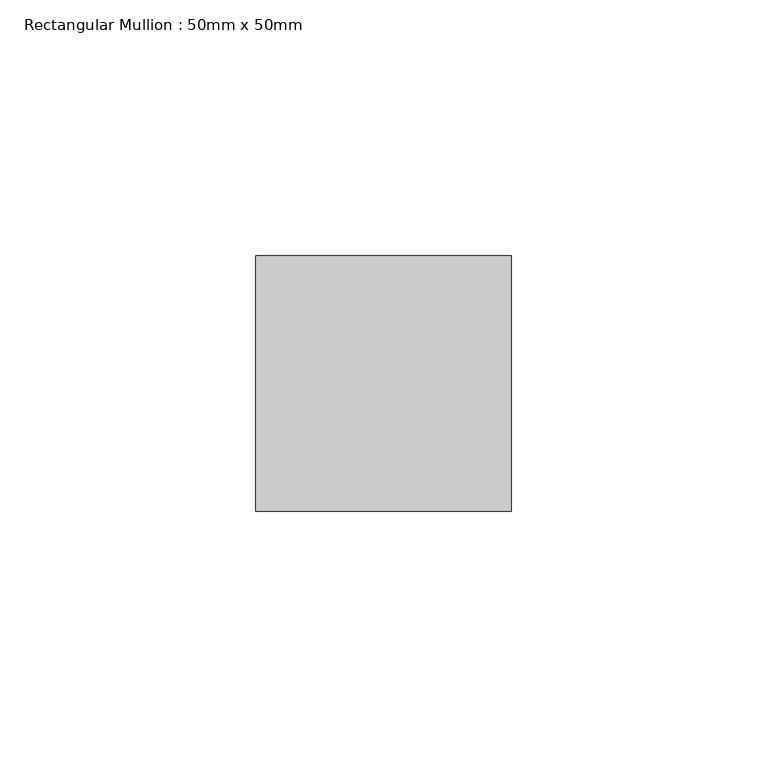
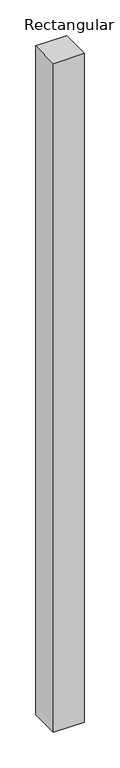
"""IFC4 building model written with IfcOpenShell, lengths in millimetres: member geometry, Rectangular Mullion : 50mm x 50mm."""

import ifcopenshell
import ifcopenshell.guid

model = None  # the IFC model being written
_history = None  # IfcOwnerHistory: only IFC2X3 demands one
_inside = {}  # id of a spatial element -> (the spatial element, [elements in it])
_under = {}  # id of a project, library or spatial element -> (it, [spatial elements below it])
_declared = {}  # id of a project -> (the project, [libraries it declares])
_typed = {}  # id of a type object -> (the type object, [elements of that type])
_made_of = {}  # id of a material, layer set ... -> (it, [elements and type objects made of it])


def new_model(schema):
    """Start an empty IFC model of exactly this schema.

    Asked for "IFC4X3", IfcOpenShell would pick the latest addendum, in which some entities
    have other attributes; the version numbers below select the first issue.
    IFC2X3 requires an IfcOwnerHistory on every rooted entity: one is made here for all.
    """
    global model, _history
    if schema == "IFC4X3":
        model = ifcopenshell.file(schema_version=(4, 3, 0, 0))
    else:
        model = ifcopenshell.file(schema=schema)
    _inside.clear()
    _under.clear()
    _declared.clear()
    _typed.clear()
    _made_of.clear()
    _history = None
    if model.schema == "IFC2X3":
        org = make("IfcOrganization", Name="unknown")
        user = make(
            "IfcPersonAndOrganization",
            ThePerson=make("IfcPerson", FamilyName="unknown"),
            TheOrganization=org,
        )
        app = make(
            "IfcApplication",
            ApplicationDeveloper=org,
            Version="unknown",
            ApplicationFullName="unknown",
            ApplicationIdentifier="unknown",
        )
        _history = make(
            "IfcOwnerHistory",
            OwningUser=user,
            OwningApplication=app,
            ChangeAction="ADDED",
            CreationDate=0,
        )
    return model


def make(cls, **values):
    """One entity of the class cls with the attributes given. An attribute that is None is left unset."""
    return model.create_entity(
        cls, **{name: value for name, value in values.items() if value is not None}
    )


def rooted(cls, **values):
    """An entity with a GlobalId (a new one), such as an element, a storey or a relation."""
    return make(cls, GlobalId=ifcopenshell.guid.new(), OwnerHistory=_history, **values)


def si_unit(unit_type, name, prefix=None):
    """IfcSIUnit, for example si_unit("LENGTHUNIT", "METRE", prefix="MILLI")."""
    return make("IfcSIUnit", UnitType=unit_type, Prefix=prefix, Name=name)


def assignment(units):
    """IfcUnitAssignment: the units of a project."""
    return None if units is None else make("IfcUnitAssignment", Units=units)


def point(xyz):
    """IfcCartesianPoint."""
    return None if xyz is None else make("IfcCartesianPoint", Coordinates=xyz)


def direction(xyz):
    """IfcDirection."""
    return None if xyz is None else make("IfcDirection", DirectionRatios=xyz)


def frame(location, z_axis=None, x_axis=None):
    """IfcAxis2Placement3D, a coordinate frame: its origin and axes. An axis left out is left unset."""
    return make(
        "IfcAxis2Placement3D",
        Location=point(location),
        Axis=direction(z_axis),
        RefDirection=direction(x_axis),
    )


def origin():
    """The frame at (0, 0, 0) with its axes left unset."""
    return frame((0.0, 0.0, 0.0))


def place(relative_to, where):
    """IfcLocalPlacement: puts the frame where relative to a parent placement (None: the world)."""
    return make(
        "IfcLocalPlacement", PlacementRelTo=relative_to, RelativePlacement=where
    )


def context(
    kind, dimensions, precision=None, world=None, true_north=None, identifier=None
):
    """IfcGeometricRepresentationContext, for example the 3D "Model" context."""
    return make(
        "IfcGeometricRepresentationContext",
        ContextIdentifier=identifier,
        ContextType=kind,
        CoordinateSpaceDimension=dimensions,
        Precision=precision,
        WorldCoordinateSystem=world,
        TrueNorth=true_north,
    )


def project(units=None, contexts=None):
    """IfcProject with its units and contexts."""
    return rooted(
        "IfcProject",
        Name="project",
        RepresentationContexts=contexts,
        UnitsInContext=assignment(units),
    )


def spatial(cls, under=None, at=None, **own):
    """A site, building, storey or space (cls), placed at a placement, below another one or the project."""
    s = rooted(cls, ObjectPlacement=at, **own)
    if under is not None:
        _under.setdefault(under.id(), (under, []))[1].append(s)
    return s


def polyline(points):
    """IfcPolyline through the points."""
    return make("IfcPolyline", Points=[point(p) for p in points])


def outline(outer, holes=None, kind="AREA"):
    """IfcArbitraryClosedProfileDef: a profile drawn as a closed curve; with holes, ...WithVoids."""
    if holes is None:
        return make("IfcArbitraryClosedProfileDef", ProfileType=kind, OuterCurve=outer)
    return make(
        "IfcArbitraryProfileDefWithVoids",
        ProfileType=kind,
        OuterCurve=outer,
        InnerCurves=holes,
    )


def extrude(swept, where, along, depth):
    """IfcExtrudedAreaSolid: the profile swept, set in the frame where, extruded along a direction by depth."""
    return make(
        "IfcExtrudedAreaSolid",
        SweptArea=swept,
        Position=where,
        ExtrudedDirection=direction(along),
        Depth=depth,
    )


def shape(context_of_items, identifier, shape_type, items):
    """IfcShapeRepresentation: the items that make up one representation, for example the "Body"."""
    return make(
        "IfcShapeRepresentation",
        ContextOfItems=context_of_items,
        RepresentationIdentifier=identifier,
        RepresentationType=shape_type,
        Items=items,
    )


def source(mapping_origin, context_of_items, identifier, shape_type, items):
    """IfcRepresentationMap: a shape defined once, which mapped items show again and again."""
    return make(
        "IfcRepresentationMap",
        MappingOrigin=mapping_origin,
        MappedRepresentation=shape(context_of_items, identifier, shape_type, items),
    )


def transform(
    local_origin,
    x_axis=None,
    y_axis=None,
    z_axis=None,
    scale=None,
    scale2=None,
    scale3=None,
    uniform=True,
):
    """IfcCartesianTransformationOperator3D, or its non-uniform kind. x_axis, y_axis, z_axis: its Axis1, 2, 3."""
    if uniform:
        return make(
            "IfcCartesianTransformationOperator3D",
            Axis1=direction(x_axis),
            Axis2=direction(y_axis),
            LocalOrigin=point(local_origin),
            Scale=scale,
            Axis3=direction(z_axis),
        )
    return make(
        "IfcCartesianTransformationOperator3DnonUniform",
        Axis1=direction(x_axis),
        Axis2=direction(y_axis),
        LocalOrigin=point(local_origin),
        Scale=scale,
        Axis3=direction(z_axis),
        Scale2=scale2,
        Scale3=scale3,
    )


def mapped(mapping_source, mapping_target):
    """IfcMappedItem: shows the shape of a source again, moved by a transform."""
    return make(
        "IfcMappedItem", MappingSource=mapping_source, MappingTarget=mapping_target
    )


def made_of(thing, what):
    """Note that an element or type object is made of a material, layer set ...; save() writes the relation."""
    if what is not None:
        _made_of.setdefault(what.id(), (what, []))[1].append(thing)
    return thing


def element(
    cls,
    number,
    at=None,
    inside=None,
    cuts=None,
    type_object=None,
    material=None,
    context=None,
    identifier="Body",
    shape_type=None,
    held_by="IfcProductDefinitionShape",
    body=None,
    shapes=None,
    **own,
):
    """One element of the class cls, such as IfcWall. Its Tag is "e" and its number.

    at: its placement. inside: the storey or other place that contains it. cuts: it is an
    opening in that element (IfcRelVoidsElement). A single representation is given by context,
    identifier, shape_type and body (its items); several are given by shapes. held_by: the class
    of the entity that holds the representations. save() writes the other relations.
    """
    e = rooted(cls, Tag="e%d" % number, ObjectPlacement=at, **own)
    if body is not None:
        shapes = [shape(context, identifier, shape_type, body)]
    if shapes is not None:
        e.Representation = make(held_by, Representations=shapes)
    if inside is not None:
        _inside.setdefault(inside.id(), (inside, []))[1].append(e)
    if cuts is not None:
        rooted(
            "IfcRelVoidsElement", RelatingBuildingElement=cuts, RelatedOpeningElement=e
        )
    if type_object is not None:
        _typed.setdefault(type_object.id(), (type_object, []))[1].append(e)
    return made_of(e, material)


def aggregate(whole, parts):
    """IfcRelAggregates: a whole, such as a stair, and the parts it consists of."""
    return rooted("IfcRelAggregates", RelatingObject=whole, RelatedObjects=parts)


def save(model, path):
    """Write the relations noted so far, then the file.

    IfcRelAggregates (storeys below a building ...), IfcRelContainedInSpatialStructure (elements
    in a storey), IfcRelDefinesByType, IfcRelAssociatesMaterial and IfcRelDeclares: one each for
    every whole, place, type object, material and project.
    """
    for whole, parts in _under.values():
        aggregate(whole, parts)
    for where, things in _inside.values():
        rooted(
            "IfcRelContainedInSpatialStructure",
            RelatedElements=things,
            RelatingStructure=where,
        )
    for kind, things in _typed.values():
        rooted("IfcRelDefinesByType", RelatedObjects=things, RelatingType=kind)
    for what, things in _made_of.values():
        rooted("IfcRelAssociatesMaterial", RelatedObjects=things, RelatingMaterial=what)
    for by, libraries in _declared.values():
        rooted("IfcRelDeclares", RelatingContext=by, RelatedDefinitions=libraries)
    model.write(path)


def rectangular_mullion_50mm_x_50mm_9107e79a(model_context):
    return source(origin(), model_context, "Body", "SweptSolid", [
        extrude(outline(polyline([(0.0, 25.0), (0.0, -25.0), (-50.0, -25.0), (-50.0, 25.0), (0.0, 25.0)])), frame((0.0, 0.0, -1145.0376087), z_axis=(0.0, 0.0, 1.0), x_axis=(1.0, 0.0, 0.0)), (0.0, 0.0, 1.0), 1145.0376087),
    ])


if __name__ == "__main__":
    model = new_model("IFC4")
    model_context = context("Model", 3, world=origin())
    ifc_project = project(units=[si_unit("LENGTHUNIT", "METRE", prefix="MILLI")], contexts=[model_context])
    site = spatial("IfcSite", under=ifc_project)
    building = spatial("IfcBuilding", under=site)
    placement = place(None, origin())
    rectangular_mullion_50mm_x_50mm_shape = rectangular_mullion_50mm_x_50mm_9107e79a(model_context)
    element("IfcMember", 1, ObjectType="Rectangular Mullion : 50mm x 50mm", at=placement, inside=building, context=model_context, shape_type="MappedRepresentation", body=[
        mapped(rectangular_mullion_50mm_x_50mm_shape, transform((0.0, 0.0, 0.0), x_axis=(1.0, 0.0, 0.0), y_axis=(0.0, 1.0, 0.0), z_axis=(0.0, 0.0, 1.0))),
    ])
    save(model, "model.ifc")
